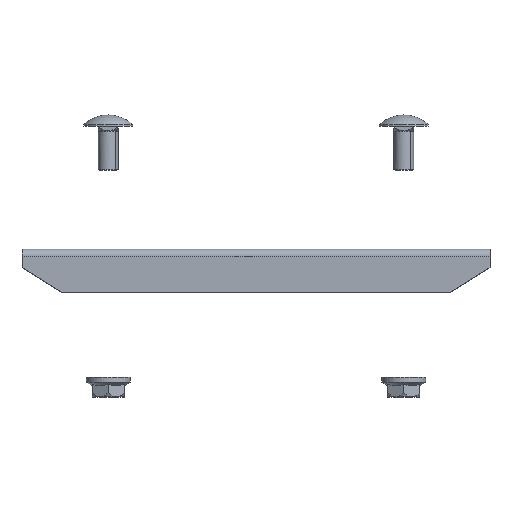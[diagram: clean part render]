
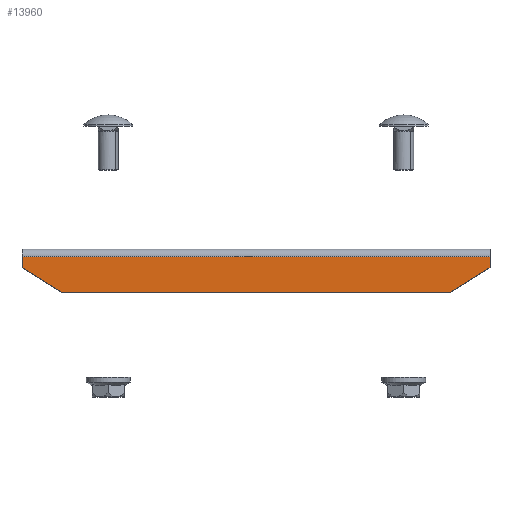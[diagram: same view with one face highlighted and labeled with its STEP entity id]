
A CAD part, top view. The second image highlights one B-rep face of the part: STEP entity #13960.
In plain terms, the highlighted planar face has unit normal (0, 0, 1) as drawn and (0, 1, 0) by its records, which use the part's own axes.
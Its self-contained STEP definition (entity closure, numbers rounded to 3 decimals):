
#8360=CARTESIAN_POINT('',(229.6,55.5,5.502));
#8370=DIRECTION('',(-0.848,0.,-0.53));
#8380=VECTOR('',#8370,1.);
#8390=LINE('',#8360,#8380);
#8400=CARTESIAN_POINT('',(245.6,55.5,15.5));
#8410=VERTEX_POINT('',#8400);
#8420=CARTESIAN_POINT('',(229.6,55.5,5.502));
#8430=VERTEX_POINT('',#8420);
#8440=EDGE_CURVE('',#8410,#8430,#8390,.T.);
#9100=CARTESIAN_POINT('',(229.6,55.5,1.));
#9110=VERTEX_POINT('',#9100);
#9140=CARTESIAN_POINT('',(229.6,55.5,-93.663));
#9150=DIRECTION('',(0.,0.,-1.));
#9160=VECTOR('',#9150,1.);
#9170=LINE('',#9140,#9160);
#9180=EDGE_CURVE('',#8430,#9110,#9170,.T.);
#9540=CARTESIAN_POINT('',(0.,55.5,15.5));
#9550=DIRECTION('',(-1.,0.,0.));
#9560=VECTOR('',#9550,1.);
#9570=LINE('',#9540,#9560);
#9580=CARTESIAN_POINT('',(403.6,55.5,15.5));
#9590=VERTEX_POINT('',#9580);
#9600=EDGE_CURVE('',#9590,#8410,#9570,.T.);
#13640=CARTESIAN_POINT('',(-50.,55.5,-93.663));
#13650=DIRECTION('',(-0.,1.,0.));
#13660=DIRECTION('',(1.,0.,0.));
#13670=AXIS2_PLACEMENT_3D('',#13640,#13650,#13660);
#13680=PLANE('',#13670);
#13690=CARTESIAN_POINT('',(419.6,55.5,-93.663));
#13700=DIRECTION('',(0.,0.,-1.));
#13710=VECTOR('',#13700,1.);
#13720=LINE('',#13690,#13710);
#13730=CARTESIAN_POINT('',(419.6,55.5,5.502));
#13740=VERTEX_POINT('',#13730);
#13750=CARTESIAN_POINT('',(419.6,55.5,1.));
#13760=VERTEX_POINT('',#13750);
#13770=EDGE_CURVE('',#13740,#13760,#13720,.T.);
#13780=ORIENTED_EDGE('',*,*,#13770,.T.);
#13790=CARTESIAN_POINT('',(20.,55.5,255.2));
#13800=DIRECTION('',(-0.848,0.,0.53));
#13810=VECTOR('',#13800,1.);
#13820=LINE('',#13790,#13810);
#13830=EDGE_CURVE('',#13740,#9590,#13820,.T.);
#13840=ORIENTED_EDGE('',*,*,#13830,.F.);
#13850=ORIENTED_EDGE('',*,*,#9600,.F.);
#13860=ORIENTED_EDGE('',*,*,#8440,.F.);
#13870=ORIENTED_EDGE('',*,*,#9180,.F.);
#13880=CARTESIAN_POINT('',(0.,55.5,1.));
#13890=DIRECTION('',(-1.,0.,0.));
#13900=VECTOR('',#13890,1.);
#13910=LINE('',#13880,#13900);
#13920=EDGE_CURVE('',#13760,#9110,#13910,.T.);
#13930=ORIENTED_EDGE('',*,*,#13920,.T.);
#13940=EDGE_LOOP('',(#13930,#13870,#13860,#13850,#13840,#13780));
#13950=FACE_OUTER_BOUND('',#13940,.T.);
#13960=ADVANCED_FACE('',(#13950),#13680,.T.);
